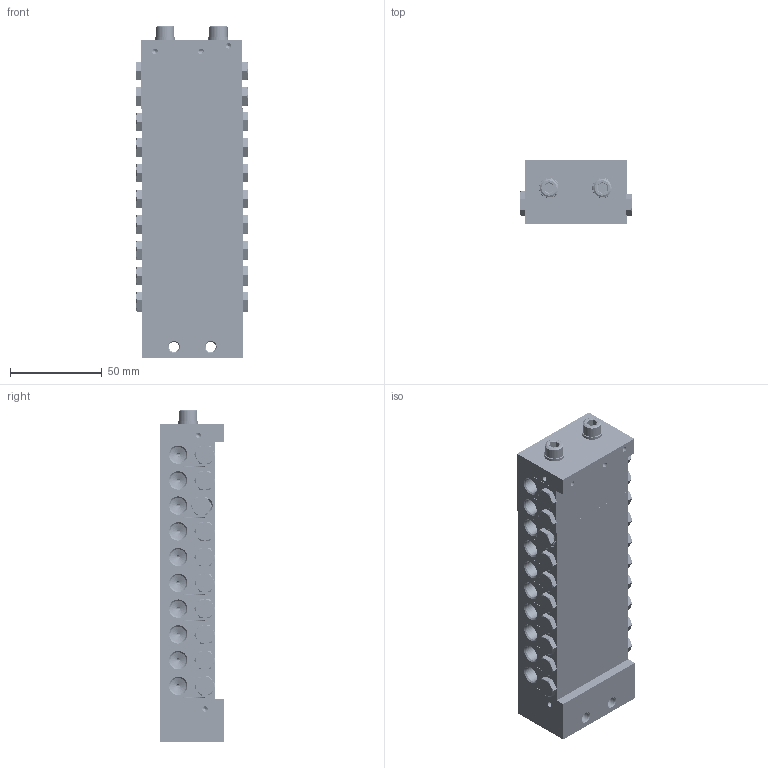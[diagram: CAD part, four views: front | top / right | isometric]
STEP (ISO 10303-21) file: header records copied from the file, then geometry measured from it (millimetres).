
FILE_DESCRIPTION (( 'STEP AP214' ), '1' );
FILE_NAME ('STW_XV_19_Auslässe.STEP', '2025-09-16T13:44:08', ( '' ), ( '' ), 'SwSTEP 2.0', 'SolidWorks 2022', '' );
FILE_SCHEMA (( 'AUTOMOTIVE_DESIGN' ));
Length unit declared in the file: millimetre
Products named in the file (11): STW_XV_END; Verschlussstopfen_1_8; STW_XV_19_Auslässe; STW_XV_Verbindungsstopen; O_RING_3X1; M6X65_DIN_912; STW_XV_Kolbenanschlag; U_Scheibe_6; STW_XV_ENGANG; STW_XV_MITTEL_1
Assembly tree (71 placements, depth 2):
  STW_XV_19_Auslässe
    STW_XV_ENGANG
    O_RING_3X1  x4
    STW_XV_MITTEL_1  x10
    STW_XV_END
    Verschlussstopfen_1_8  x20
    STW_XV_Kolbenanschlag  x20
    STW_XV_Verbindungsstopen  x10
    M6X65_DIN_912  x2
    U_Scheibe_6  x2
    Verschlussstopfen_1_8
Bounding box: 61.32 x 35.03 x 180.48 mm (x, y, z)
Volume: 268755.3 mm3; surface area: 135812.4 mm2
Topology: 71 solids, 71 shells, 2754 faces, 7245 edges, 4622 vertices
Faces by surface type: plane 1276, cylinder 779, cone 579, bspline 96, torus 24
Full cylindrical faces by diameter (mm): 2 x257, 3 x7, 5 x101, 5.5 x2, 5.9 x2, 6 x2, 6.2 x22, 6.4 x2, 6.5 x20, 7 x20, 8 x20, 8.4 x10, 8.6 x50, 9 x21, 9.7 x21, 9.73 x10, 10 x22, 11 x2, 15 x1
Entity records: 34895 total; most frequent: CARTESIAN_POINT 15316, ORIENTED_EDGE 2596, DIRECTION 2251, EDGE_CURVE 1298, VERTEX_POINT 919, EDGE_LOOP 845, AXIS2_PLACEMENT_3D 781, VECTOR 689
